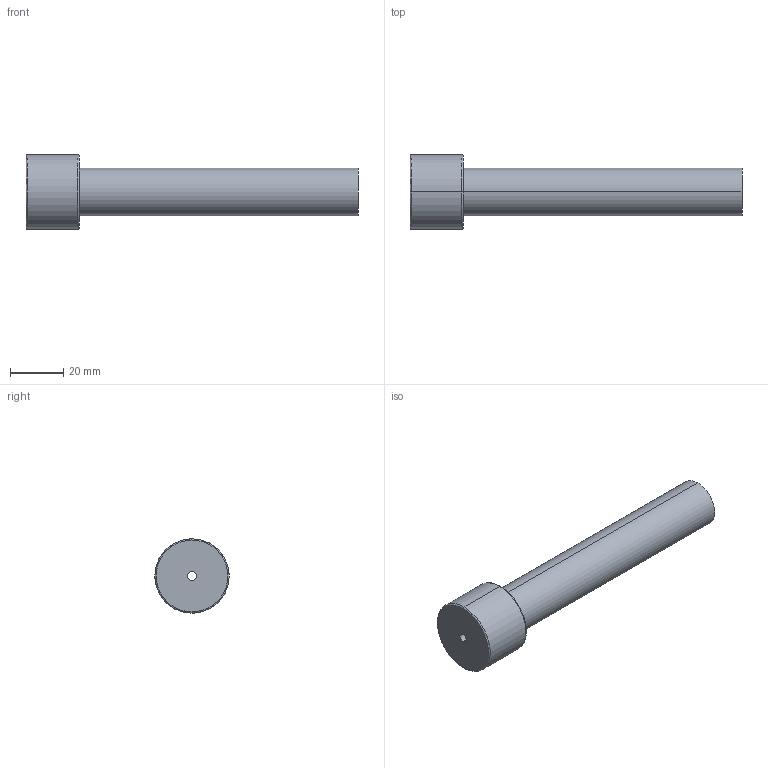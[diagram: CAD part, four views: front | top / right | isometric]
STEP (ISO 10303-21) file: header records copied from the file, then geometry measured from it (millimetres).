
FILE_DESCRIPTION(('CATIA V5 STEP Exchange'),'2;1');
FILE_NAME('C:\Users\Utente\Desktop\IO LAVORO\3D X SITO CF\X SITO\PLASTICA\3D files 367\367-18X125.stp','2021-03-24T15:42:24+00:00',('none'),('none'),'CATIA Version 5 Release 20 GA (IN-10)','CATIA V5 STEP AP203','none');
FILE_SCHEMA(('CONFIG_CONTROL_DESIGN'));
Length unit declared in the file: millimetre
Products named in the file (1): 367-18X125
Bounding box: 125 x 28 x 28 mm (x, y, z)
Volume: 34432.4 mm3; surface area: 11387.9 mm2
Topology: 1 solids, 1 shells, 13 faces, 42 edges, 32 vertices
Faces by surface type: torus 4, cylinder 4, plane 3, cone 2
Entity records: 608 total; most frequent: CARTESIAN_POINT 194, ORIENTED_EDGE 84, DIRECTION 60, AXIS2_PLACEMENT_3D 42, EDGE_CURVE 42, VERTEX_POINT 32, CIRCLE 28, EDGE_LOOP 16
